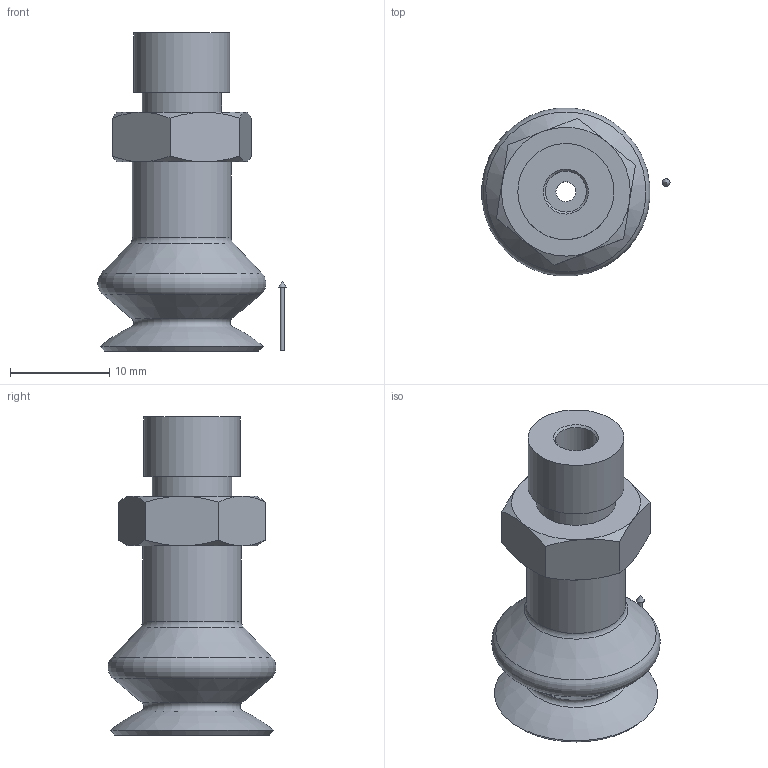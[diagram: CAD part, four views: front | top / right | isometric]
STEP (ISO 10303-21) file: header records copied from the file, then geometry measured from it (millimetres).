
FILE_DESCRIPTION(('STEP AP214'),'1');
FILE_NAME('KIT.08.31.D16.9.stp','2019-05-28T06:38:20',(' '),(' '),'Spatial InterOp 3D',' ',' ');
FILE_SCHEMA(('AUTOMOTIVE_DESIGN { 1 0 10303 214 1 1 1 1 }'));
Length unit declared in the file: millimetre
Products named in the file (5): KIT.08.31.D16.9; CA.08.09.009; CA.08.31.003
Assembly tree (4 placements, depth 3):
  KIT.08.31.D16.9
    CA.08.09.009
    (unnamed)
      CA.08.31.003
      CA.08.31.003
Bounding box: 18.98 x 16.94 x 32.08 mm (x, y, z)
Volume: 3242.4 mm3; surface area: 2563.9 mm2
Topology: 3 solids, 3 shells, 55 faces, 107 edges, 66 vertices
Faces by surface type: cone 21, plane 20, cylinder 10, torus 3, bspline 1
Full cylindrical faces by diameter (mm): 0.4 x1, 2 x1, 4.134 x1, 4.5 x3, 5 x1, 8 x1, 9.7 x1, 10 x1
Entity records: 1859 total; most frequent: CARTESIAN_POINT 321, DIRECTION 220, ORIENTED_EDGE 154, AXIS2_PLACEMENT_3D 107, EDGE_LOOP 90, EDGE_CURVE 77, FACE_OUTER_BOUND 69, VERTEX_POINT 60
